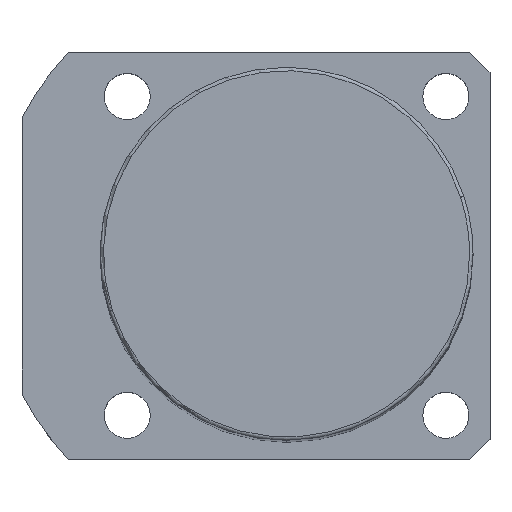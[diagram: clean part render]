
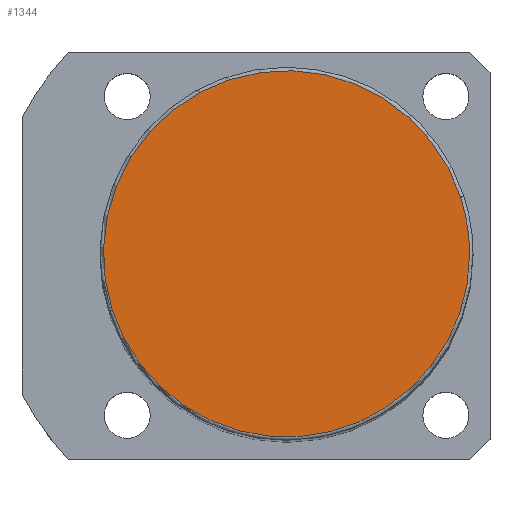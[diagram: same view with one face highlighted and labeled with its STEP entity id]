
A CAD part, top view. The second image highlights one B-rep face of the part: STEP entity #1344.
In plain terms, the highlighted planar face has unit normal (0, 0, 1).
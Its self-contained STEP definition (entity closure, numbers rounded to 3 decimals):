
#1277=CARTESIAN_POINT('',(25.679,8.343,186.0));
#1278=VERTEX_POINT('',#1277);
#1296=CARTESIAN_POINT('',(-25.679,-8.343,186.0));
#1297=VERTEX_POINT('',#1296);
#1305=CARTESIAN_POINT('',(0.0,0.0,186.0));
#1306=DIRECTION('',(0.0,0.0,1.0));
#1307=DIRECTION('',(1.0,0.0,0.0));
#1308=AXIS2_PLACEMENT_3D('',#1305,#1306,#1307);
#1309=CIRCLE('',#1308,27.0);
#1310=EDGE_CURVE('no 1840',#1278,#1297,#1309,.T.);
#1320=CARTESIAN_POINT('',(27.0,0.0,186.0));
#1321=VERTEX_POINT('',#1320);
#1322=CARTESIAN_POINT('',(0.0,0.0,186.0));
#1323=DIRECTION('',(0.0,0.0,1.0));
#1324=DIRECTION('',(1.0,0.0,0.0));
#1325=AXIS2_PLACEMENT_3D('',#1322,#1323,#1324);
#1326=CIRCLE('',#1325,27.0);
#1327=EDGE_CURVE('no 1849',#1321,#1278,#1326,.T.);
#1328=ORIENTED_EDGE('',*,*,#1327,.T.);
#1329=ORIENTED_EDGE('',*,*,#1310,.T.);
#1330=CARTESIAN_POINT('',(0.0,0.0,186.0));
#1331=DIRECTION('',(0.0,0.0,1.0));
#1332=DIRECTION('',(1.0,0.0,0.0));
#1333=AXIS2_PLACEMENT_3D('',#1330,#1331,#1332);
#1334=CIRCLE('',#1333,27.0);
#1335=EDGE_CURVE('no 1855',#1297,#1321,#1334,.T.);
#1336=ORIENTED_EDGE('',*,*,#1335,.T.);
#1337=EDGE_LOOP('',(#1328,#1329,#1336));
#1338=FACE_OUTER_BOUND('',#1337,.T.);
#1339=CARTESIAN_POINT('',(0.0,0.0,186.0));
#1340=DIRECTION('',(0.0,0.0,1.0));
#1341=DIRECTION('',(1.0,0.0,0.0));
#1342=AXIS2_PLACEMENT_3D('',#1339,#1340,#1341);
#1343=PLANE('',#1342);
#1344=ADVANCED_FACE('no 1842',(#1338),#1343,.T.);
